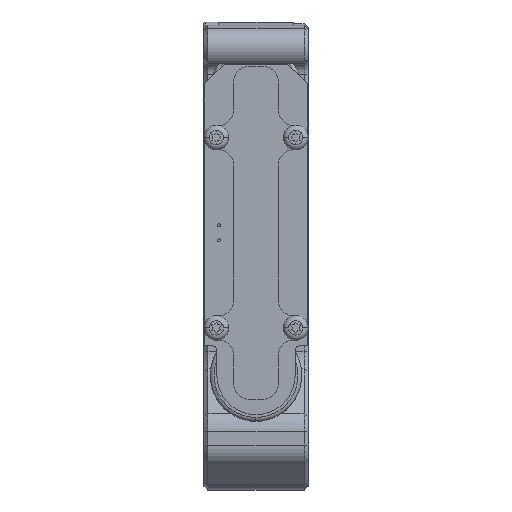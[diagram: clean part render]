
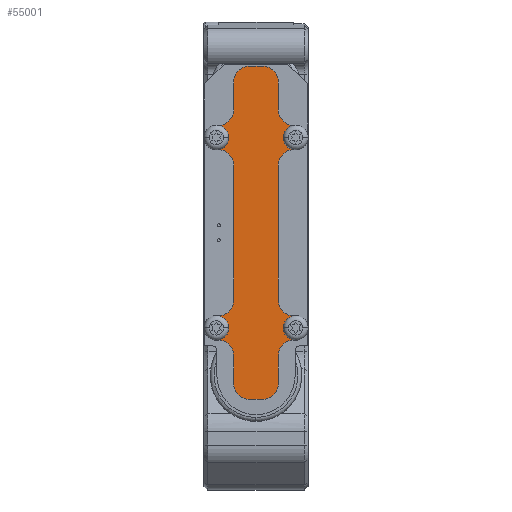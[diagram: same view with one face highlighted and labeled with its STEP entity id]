
A CAD part, left-side view. The second image highlights one B-rep face of the part: STEP entity #55001.
In plain terms, the highlighted planar face has unit normal (-1, 0, 0).
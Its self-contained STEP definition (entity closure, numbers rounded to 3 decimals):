
#1935=CARTESIAN_POINT('',(-37.75,-1.3,-30.4));
#1936=DIRECTION('',(-1.,0.,0.));
#1937=DIRECTION('',(0.,0.,-1.));
#1938=AXIS2_PLACEMENT_3D('',#1935,#1936,#1937);
#1940=DIRECTION('',(0.,-1.,0.));
#1941=VECTOR('',#1940,2.6);
#1942=CARTESIAN_POINT('',(-37.75,1.3,-33.6));
#1943=LINE('',#1942,#1941);
#1944=CARTESIAN_POINT('',(-37.75,1.3,-30.4));
#1945=DIRECTION('',(-1.,0.,0.));
#1946=DIRECTION('',(0.,1.,0.));
#1947=AXIS2_PLACEMENT_3D('',#1944,#1945,#1946);
#1949=DIRECTION('',(0.,0.,-1.));
#1950=VECTOR('',#1949,5.6);
#1951=CARTESIAN_POINT('',(-37.75,4.5,-24.8));
#1952=LINE('',#1951,#1950);
#1953=DIRECTION('',(0.,-1.,0.));
#1954=VECTOR('',#1953,0.3);
#1955=CARTESIAN_POINT('',(-37.75,8.,-21.6));
#1956=LINE('',#1955,#1954);
#1957=CARTESIAN_POINT('',(-37.75,8.,-19.2));
#1958=DIRECTION('',(-1.,0.,0.));
#1959=DIRECTION('',(0.,0.,-1.));
#1960=AXIS2_PLACEMENT_3D('',#1957,#1958,#1959);
#1962=DIRECTION('',(0.,1.,0.));
#1963=VECTOR('',#1962,0.3);
#1964=CARTESIAN_POINT('',(-37.75,7.7,-16.8));
#1965=LINE('',#1964,#1963);
#1966=DIRECTION('',(0.,0.,-1.));
#1967=VECTOR('',#1966,27.2);
#1968=CARTESIAN_POINT('',(-37.75,4.5,13.6));
#1969=LINE('',#1968,#1967);
#1970=DIRECTION('',(0.,-1.,0.));
#1971=VECTOR('',#1970,0.3);
#1972=CARTESIAN_POINT('',(-37.75,8.,16.8));
#1973=LINE('',#1972,#1971);
#1974=CARTESIAN_POINT('',(-37.75,8.,19.2));
#1975=DIRECTION('',(-1.,0.,0.));
#1976=DIRECTION('',(0.,0.,-1.));
#1977=AXIS2_PLACEMENT_3D('',#1974,#1975,#1976);
#1979=DIRECTION('',(0.,1.,0.));
#1980=VECTOR('',#1979,0.3);
#1981=CARTESIAN_POINT('',(-37.75,7.7,21.6));
#1982=LINE('',#1981,#1980);
#1983=DIRECTION('',(0.,0.,-1.));
#1984=VECTOR('',#1983,5.6);
#1985=CARTESIAN_POINT('',(-37.75,4.5,30.4));
#1986=LINE('',#1985,#1984);
#1987=CARTESIAN_POINT('',(-37.75,1.3,30.4));
#1988=DIRECTION('',(-1.,0.,0.));
#1989=DIRECTION('',(0.,0.,1.));
#1990=AXIS2_PLACEMENT_3D('',#1987,#1988,#1989);
#1992=DIRECTION('',(0.,1.,0.));
#1993=VECTOR('',#1992,2.6);
#1994=CARTESIAN_POINT('',(-37.75,-1.3,33.6));
#1995=LINE('',#1994,#1993);
#1996=CARTESIAN_POINT('',(-37.75,-1.3,30.4));
#1997=DIRECTION('',(-1.,0.,0.));
#1998=DIRECTION('',(0.,-1.,0.));
#1999=AXIS2_PLACEMENT_3D('',#1996,#1997,#1998);
#2001=DIRECTION('',(0.,0.,1.));
#2002=VECTOR('',#2001,5.6);
#2003=CARTESIAN_POINT('',(-37.75,-4.5,24.8));
#2004=LINE('',#2003,#2002);
#2005=DIRECTION('',(0.,1.,0.));
#2006=VECTOR('',#2005,0.3);
#2007=CARTESIAN_POINT('',(-37.75,-8.,21.6));
#2008=LINE('',#2007,#2006);
#2009=CARTESIAN_POINT('',(-37.75,-8.,19.2));
#2010=DIRECTION('',(-1.,0.,0.));
#2011=DIRECTION('',(0.,0.,1.));
#2012=AXIS2_PLACEMENT_3D('',#2009,#2010,#2011);
#2014=DIRECTION('',(0.,-1.,0.));
#2015=VECTOR('',#2014,0.3);
#2016=CARTESIAN_POINT('',(-37.75,-7.7,16.8));
#2017=LINE('',#2016,#2015);
#2018=DIRECTION('',(0.,0.,1.));
#2019=VECTOR('',#2018,27.2);
#2020=CARTESIAN_POINT('',(-37.75,-4.5,-13.6));
#2021=LINE('',#2020,#2019);
#2022=DIRECTION('',(0.,1.,0.));
#2023=VECTOR('',#2022,0.3);
#2024=CARTESIAN_POINT('',(-37.75,-8.,-16.8));
#2025=LINE('',#2024,#2023);
#2026=CARTESIAN_POINT('',(-37.75,-8.,-19.2));
#2027=DIRECTION('',(-1.,0.,0.));
#2028=DIRECTION('',(0.,0.,1.));
#2029=AXIS2_PLACEMENT_3D('',#2026,#2027,#2028);
#2031=DIRECTION('',(0.,-1.,0.));
#2032=VECTOR('',#2031,0.3);
#2033=CARTESIAN_POINT('',(-37.75,-7.7,-21.6));
#2034=LINE('',#2033,#2032);
#2035=DIRECTION('',(0.,0.,1.));
#2036=VECTOR('',#2035,5.6);
#2037=CARTESIAN_POINT('',(-37.75,-4.5,-30.4));
#2038=LINE('',#2037,#2036);
#2156=CARTESIAN_POINT('',(-37.75,-7.7,-24.8));
#2157=DIRECTION('',(1.,0.,0.));
#2158=DIRECTION('',(0.,1.,0.));
#2159=AXIS2_PLACEMENT_3D('',#2156,#2157,#2158);
#2564=CARTESIAN_POINT('',(-37.75,-7.7,-13.6));
#2565=DIRECTION('',(1.,0.,0.));
#2566=DIRECTION('',(0.,0.,-1.));
#2567=AXIS2_PLACEMENT_3D('',#2564,#2565,#2566);
#2582=CARTESIAN_POINT('',(-37.75,-7.7,13.6));
#2583=DIRECTION('',(1.,0.,0.));
#2584=DIRECTION('',(0.,1.,0.));
#2585=AXIS2_PLACEMENT_3D('',#2582,#2583,#2584);
#37155=CARTESIAN_POINT('',(-37.75,-7.7,24.8));
#37156=DIRECTION('',(1.,0.,0.));
#37157=DIRECTION('',(0.,0.,-1.));
#37158=AXIS2_PLACEMENT_3D('',#37155,#37156,#37157);
#37194=CARTESIAN_POINT('',(-37.75,7.7,24.8));
#37195=DIRECTION('',(1.,0.,0.));
#37196=DIRECTION('',(0.,-1.,0.));
#37197=AXIS2_PLACEMENT_3D('',#37194,#37195,#37196);
#37602=CARTESIAN_POINT('',(-37.75,7.7,13.6));
#37603=DIRECTION('',(1.,0.,0.));
#37604=DIRECTION('',(0.,0.,1.));
#37605=AXIS2_PLACEMENT_3D('',#37602,#37603,#37604);
#37620=CARTESIAN_POINT('',(-37.75,7.7,-13.6));
#37621=DIRECTION('',(1.,0.,0.));
#37622=DIRECTION('',(0.,-1.,0.));
#37623=AXIS2_PLACEMENT_3D('',#37620,#37621,#37622);
#38023=CARTESIAN_POINT('',(-37.75,7.7,-24.8));
#38024=DIRECTION('',(1.,0.,0.));
#38025=DIRECTION('',(0.,0.,1.));
#38026=AXIS2_PLACEMENT_3D('',#38023,#38024,#38025);
#47183=CARTESIAN_POINT('',(-37.75,8.,16.8));
#47184=CARTESIAN_POINT('',(-37.75,8.,21.6));
#47185=VERTEX_POINT('',#47183);
#47186=VERTEX_POINT('',#47184);
#47187=CARTESIAN_POINT('',(-37.75,-8.,21.6));
#47188=CARTESIAN_POINT('',(-37.75,-8.,16.8));
#47189=VERTEX_POINT('',#47187);
#47190=VERTEX_POINT('',#47188);
#47191=CARTESIAN_POINT('',(-37.75,-8.,-16.8));
#47192=CARTESIAN_POINT('',(-37.75,-8.,-21.6));
#47193=VERTEX_POINT('',#47191);
#47194=VERTEX_POINT('',#47192);
#47195=CARTESIAN_POINT('',(-37.75,8.,-21.6));
#47196=CARTESIAN_POINT('',(-37.75,8.,-16.8));
#47197=VERTEX_POINT('',#47195);
#47198=VERTEX_POINT('',#47196);
#47200=CARTESIAN_POINT('',(-37.75,-7.7,16.8));
#47202=VERTEX_POINT('',#47200);
#47204=CARTESIAN_POINT('',(-37.75,-4.5,13.6));
#47206=VERTEX_POINT('',#47204);
#47208=CARTESIAN_POINT('',(-37.75,-4.5,-13.6));
#47210=VERTEX_POINT('',#47208);
#47212=CARTESIAN_POINT('',(-37.75,-7.7,-16.8));
#47214=VERTEX_POINT('',#47212);
#47216=CARTESIAN_POINT('',(-37.75,7.7,-16.8));
#47218=VERTEX_POINT('',#47216);
#47220=CARTESIAN_POINT('',(-37.75,4.5,-13.6));
#47222=VERTEX_POINT('',#47220);
#47224=CARTESIAN_POINT('',(-37.75,4.5,13.6));
#47226=VERTEX_POINT('',#47224);
#47228=CARTESIAN_POINT('',(-37.75,7.7,16.8));
#47230=VERTEX_POINT('',#47228);
#47232=CARTESIAN_POINT('',(-37.75,7.7,21.6));
#47234=VERTEX_POINT('',#47232);
#47236=CARTESIAN_POINT('',(-37.75,4.5,24.8));
#47238=VERTEX_POINT('',#47236);
#47239=CARTESIAN_POINT('',(-37.75,-7.7,21.6));
#47241=VERTEX_POINT('',#47239);
#47243=CARTESIAN_POINT('',(-37.75,-4.5,24.8));
#47245=VERTEX_POINT('',#47243);
#47247=CARTESIAN_POINT('',(-37.75,7.7,-21.6));
#47249=VERTEX_POINT('',#47247);
#47251=CARTESIAN_POINT('',(-37.75,4.5,-24.8));
#47253=VERTEX_POINT('',#47251);
#47256=CARTESIAN_POINT('',(-37.75,-7.7,-21.6));
#47258=VERTEX_POINT('',#47256);
#47260=CARTESIAN_POINT('',(-37.75,-4.5,-24.8));
#47262=VERTEX_POINT('',#47260);
#47267=CARTESIAN_POINT('',(-37.75,-1.3,-33.6));
#47268=VERTEX_POINT('',#47267);
#47269=CARTESIAN_POINT('',(-37.75,-4.5,-30.4));
#47270=VERTEX_POINT('',#47269);
#47275=CARTESIAN_POINT('',(-37.75,4.5,-30.4));
#47276=VERTEX_POINT('',#47275);
#47277=CARTESIAN_POINT('',(-37.75,1.3,-33.6));
#47278=VERTEX_POINT('',#47277);
#47283=CARTESIAN_POINT('',(-37.75,-4.5,30.4));
#47284=VERTEX_POINT('',#47283);
#47285=CARTESIAN_POINT('',(-37.75,-1.3,33.6));
#47286=VERTEX_POINT('',#47285);
#47291=CARTESIAN_POINT('',(-37.75,1.3,33.6));
#47292=VERTEX_POINT('',#47291);
#47293=CARTESIAN_POINT('',(-37.75,4.5,30.4));
#47294=VERTEX_POINT('',#47293);
#54931=CARTESIAN_POINT('',(-37.75,0.,0.));
#54932=DIRECTION('',(-1.,0.,0.));
#54933=DIRECTION('',(0.,0.,1.));
#54934=AXIS2_PLACEMENT_3D('',#54931,#54932,#54933);
#54935=PLANE('',#54934);
#54937=ORIENTED_EDGE('',*,*,#54936,.F.);
#54939=ORIENTED_EDGE('',*,*,#54938,.F.);
#54941=ORIENTED_EDGE('',*,*,#54940,.F.);
#54943=ORIENTED_EDGE('',*,*,#54942,.F.);
#54945=ORIENTED_EDGE('',*,*,#54944,.F.);
#54947=ORIENTED_EDGE('',*,*,#54946,.F.);
#54949=ORIENTED_EDGE('',*,*,#54948,.T.);
#54951=ORIENTED_EDGE('',*,*,#54950,.F.);
#54953=ORIENTED_EDGE('',*,*,#54952,.F.);
#54955=ORIENTED_EDGE('',*,*,#54954,.F.);
#54957=ORIENTED_EDGE('',*,*,#54956,.F.);
#54959=ORIENTED_EDGE('',*,*,#54958,.F.);
#54961=ORIENTED_EDGE('',*,*,#54960,.T.);
#54963=ORIENTED_EDGE('',*,*,#54962,.F.);
#54965=ORIENTED_EDGE('',*,*,#54964,.F.);
#54967=ORIENTED_EDGE('',*,*,#54966,.F.);
#54969=ORIENTED_EDGE('',*,*,#54968,.F.);
#54971=ORIENTED_EDGE('',*,*,#54970,.F.);
#54973=ORIENTED_EDGE('',*,*,#54972,.F.);
#54975=ORIENTED_EDGE('',*,*,#54974,.F.);
#54977=ORIENTED_EDGE('',*,*,#54976,.F.);
#54979=ORIENTED_EDGE('',*,*,#54978,.F.);
#54980=ORIENTED_EDGE('',*,*,#54924,.T.);
#54982=ORIENTED_EDGE('',*,*,#54981,.F.);
#54984=ORIENTED_EDGE('',*,*,#54983,.F.);
#54986=ORIENTED_EDGE('',*,*,#54985,.F.);
#54988=ORIENTED_EDGE('',*,*,#54987,.F.);
#54990=ORIENTED_EDGE('',*,*,#54989,.F.);
#54992=ORIENTED_EDGE('',*,*,#54991,.T.);
#54994=ORIENTED_EDGE('',*,*,#54993,.F.);
#54996=ORIENTED_EDGE('',*,*,#54995,.F.);
#54998=ORIENTED_EDGE('',*,*,#54997,.F.);
#54999=EDGE_LOOP('',(#54937,#54939,#54941,#54943,#54945,#54947,#54949,#54951,
#54953,#54955,#54957,#54959,#54961,#54963,#54965,#54967,#54969,#54971,#54973,
#54975,#54977,#54979,#54980,#54982,#54984,#54986,#54988,#54990,#54992,#54994,
#54996,#54998));
#55000=FACE_OUTER_BOUND('',#54999,.F.);
#55001=ADVANCED_FACE('',(#55000),#54935,.T.);
#1939=CIRCLE('',#1938,3.2);
#1948=CIRCLE('',#1947,3.2);
#1961=CIRCLE('',#1960,2.4);
#1978=CIRCLE('',#1977,2.4);
#1991=CIRCLE('',#1990,3.2);
#2000=CIRCLE('',#1999,3.2);
#2013=CIRCLE('',#2012,2.4);
#2030=CIRCLE('',#2029,2.4);
#2160=CIRCLE('',#2159,3.2);
#2568=CIRCLE('',#2567,3.2);
#2586=CIRCLE('',#2585,3.2);
#37159=CIRCLE('',#37158,3.2);
#37198=CIRCLE('',#37197,3.2);
#37606=CIRCLE('',#37605,3.2);
#37624=CIRCLE('',#37623,3.2);
#38027=CIRCLE('',#38026,3.2);
#54924=EDGE_CURVE('',#47189,#47190,#2013,.T.);
#54936=EDGE_CURVE('',#47268,#47270,#1939,.T.);
#54938=EDGE_CURVE('',#47278,#47268,#1943,.T.);
#54940=EDGE_CURVE('',#47276,#47278,#1948,.T.);
#54942=EDGE_CURVE('',#47253,#47276,#1952,.T.);
#54944=EDGE_CURVE('',#47249,#47253,#38027,.T.);
#54946=EDGE_CURVE('',#47197,#47249,#1956,.T.);
#54948=EDGE_CURVE('',#47197,#47198,#1961,.T.);
#54950=EDGE_CURVE('',#47218,#47198,#1965,.T.);
#54952=EDGE_CURVE('',#47222,#47218,#37624,.T.);
#54954=EDGE_CURVE('',#47226,#47222,#1969,.T.);
#54956=EDGE_CURVE('',#47230,#47226,#37606,.T.);
#54958=EDGE_CURVE('',#47185,#47230,#1973,.T.);
#54960=EDGE_CURVE('',#47185,#47186,#1978,.T.);
#54962=EDGE_CURVE('',#47234,#47186,#1982,.T.);
#54964=EDGE_CURVE('',#47238,#47234,#37198,.T.);
#54966=EDGE_CURVE('',#47294,#47238,#1986,.T.);
#54968=EDGE_CURVE('',#47292,#47294,#1991,.T.);
#54970=EDGE_CURVE('',#47286,#47292,#1995,.T.);
#54972=EDGE_CURVE('',#47284,#47286,#2000,.T.);
#54974=EDGE_CURVE('',#47245,#47284,#2004,.T.);
#54976=EDGE_CURVE('',#47241,#47245,#37159,.T.);
#54978=EDGE_CURVE('',#47189,#47241,#2008,.T.);
#54981=EDGE_CURVE('',#47202,#47190,#2017,.T.);
#54983=EDGE_CURVE('',#47206,#47202,#2586,.T.);
#54985=EDGE_CURVE('',#47210,#47206,#2021,.T.);
#54987=EDGE_CURVE('',#47214,#47210,#2568,.T.);
#54989=EDGE_CURVE('',#47193,#47214,#2025,.T.);
#54991=EDGE_CURVE('',#47193,#47194,#2030,.T.);
#54993=EDGE_CURVE('',#47258,#47194,#2034,.T.);
#54995=EDGE_CURVE('',#47262,#47258,#2160,.T.);
#54997=EDGE_CURVE('',#47270,#47262,#2038,.T.);
